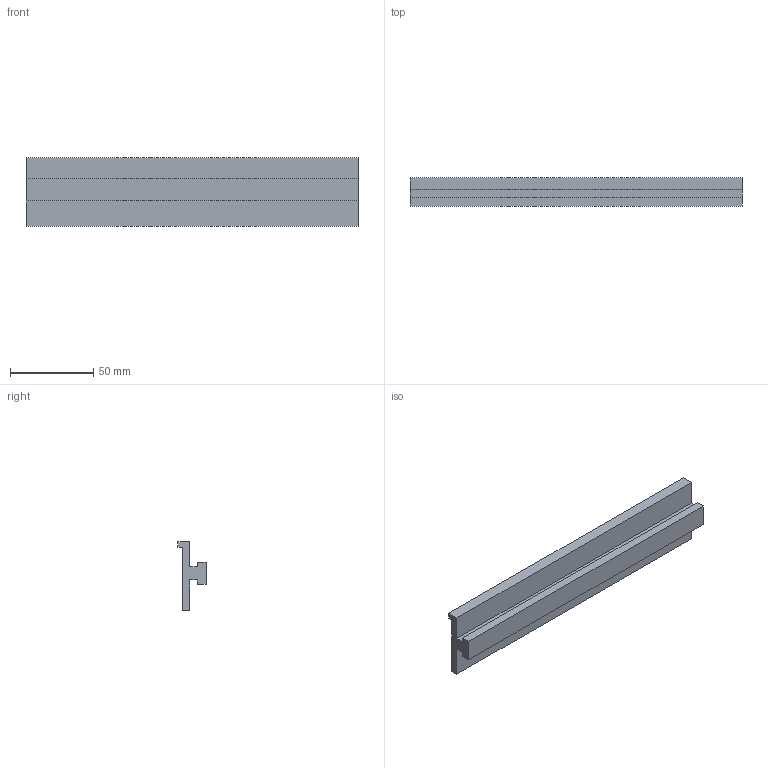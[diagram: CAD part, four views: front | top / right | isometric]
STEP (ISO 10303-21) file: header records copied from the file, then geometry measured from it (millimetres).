
FILE_DESCRIPTION (( 'STEP AP214' ), '1' );
FILE_NAME ('1.6050 Liukukisko 75 200mm.STEP', '2025-07-24T10:58:26', ( '' ), ( '' ), 'SwSTEP 2.0', 'SolidWorks 2024', '' );
FILE_SCHEMA (( 'AUTOMOTIVE_DESIGN' ));
Length unit declared in the file: millimetre
Products named in the file (1): 1.6050 Liukukisko 75 200mm
Bounding box: 200 x 17 x 41.5 mm (x, y, z)
Volume: 59300 mm3; surface area: 26193 mm2
Topology: 1 solids, 1 shells, 16 faces, 42 edges, 28 vertices
Faces by surface type: plane 16
Entity records: 685 total; most frequent: CARTESIAN_POINT 87, ORIENTED_EDGE 84, DIRECTION 76, VECTOR 42, LINE 42, EDGE_CURVE 42, VERTEX_POINT 28, UNCERTAINTY_MEASURE_WITH_UNIT 18
